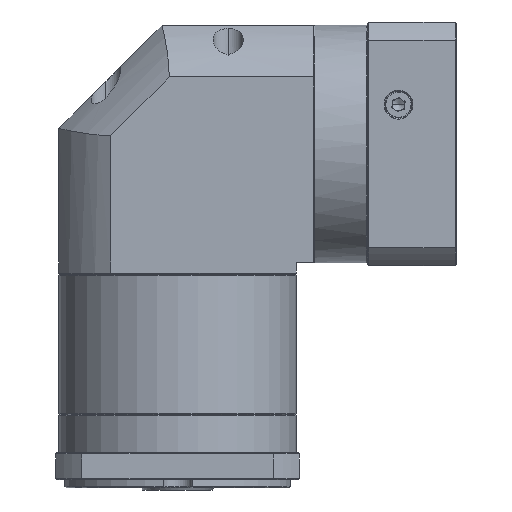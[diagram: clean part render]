
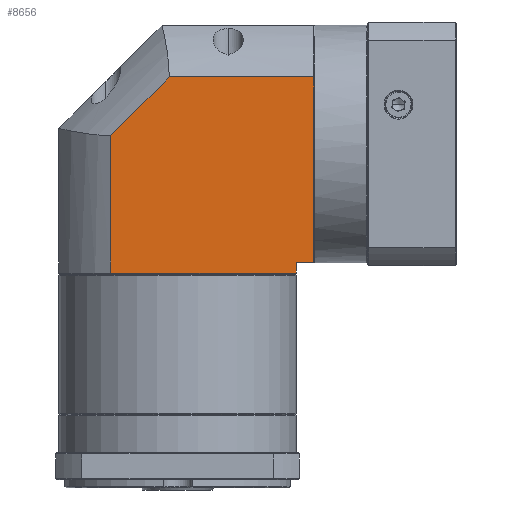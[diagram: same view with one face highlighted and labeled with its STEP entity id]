
A CAD part, front view. The second image highlights one B-rep face of the part: STEP entity #8656.
In plain terms, the highlighted planar face has unit normal (0, -1, 0).
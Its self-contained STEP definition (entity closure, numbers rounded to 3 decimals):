
#617 = VERTEX_POINT ( 'NONE', #78725 ) ;
#1355 = VERTEX_POINT ( 'NONE', #15881 ) ;
#3658 = VERTEX_POINT ( 'NONE', #82100 ) ;
#8656 = ADVANCED_FACE ( 'NONE', ( #77273 ), #113229, .F. ) ;
#12423 = VECTOR ( 'NONE', #115242, 1000. ) ;
#13775 = CARTESIAN_POINT ( 'NONE',  ( 96.073, 31.397, -22.795 ) ) ;
#15881 = CARTESIAN_POINT ( 'NONE',  ( 34.511, 31.397, 72.105 ) ) ;
#19391 = EDGE_CURVE ( 'NONE', #88885, #617, #60490, .T. ) ;
#22396 = VERTEX_POINT ( 'NONE', #65912 ) ;
#23074 = EDGE_CURVE ( 'NONE', #64214, #88885, #101951, .T. ) ;
#24350 = CARTESIAN_POINT ( 'NONE',  ( -18.927, 31.397, -22.795 ) ) ;
#25776 = EDGE_CURVE ( 'NONE', #617, #22396, #82027, .T. ) ;
#26274 = ORIENTED_EDGE ( 'NONE', *, *, #25776, .F. ) ;
#27502 = VECTOR ( 'NONE', #38885, 1000. ) ;
#29859 = EDGE_CURVE ( 'NONE', #1355, #120466, #77345, .T. ) ;
#33200 = DIRECTION ( 'NONE',  ( 0., 1., 0. ) ) ;
#33660 = DIRECTION ( 'NONE',  ( 0.707, 0., 0.707 ) ) ;
#38885 = DIRECTION ( 'NONE',  ( 0., 0., -1. ) ) ;
#43235 = ORIENTED_EDGE ( 'NONE', *, *, #29859, .F. ) ;
#46511 = VECTOR ( 'NONE', #33660, 1000. ) ;
#48465 = CARTESIAN_POINT ( 'NONE',  ( 96.073, 31.397, -29.295 ) ) ;
#48504 = DIRECTION ( 'NONE',  ( 0., 0., 1. ) ) ;
#51196 = VECTOR ( 'NONE', #48504, 1000. ) ;
#54847 = ORIENTED_EDGE ( 'NONE', *, *, #79700, .F. ) ;
#57292 = VECTOR ( 'NONE', #120506, 1000. ) ;
#60490 = LINE ( 'NONE', #24350, #12423 ) ;
#64214 = VERTEX_POINT ( 'NONE', #113069 ) ;
#65912 = CARTESIAN_POINT ( 'NONE',  ( 6.173, 31.397, 43.767 ) ) ;
#69593 = LINE ( 'NONE', #112842, #46511 ) ;
#71695 = CARTESIAN_POINT ( 'NONE',  ( 104.473, 31.397, 72.105 ) ) ;
#72145 = CARTESIAN_POINT ( 'NONE',  ( 104.473, 31.397, -29.295 ) ) ;
#77273 = FACE_OUTER_BOUND ( 'NONE', #102354, .T. ) ;
#77345 = LINE ( 'NONE', #120078, #57292 ) ;
#78725 = CARTESIAN_POINT ( 'NONE',  ( 6.173, 31.397, -22.795 ) ) ;
#79051 = LINE ( 'NONE', #72145, #94750 ) ;
#79700 = EDGE_CURVE ( 'NONE', #120466, #3658, #79051, .T. ) ;
#81337 = EDGE_CURVE ( 'NONE', #3658, #64214, #83343, .T. ) ;
#82027 = LINE ( 'NONE', #107336, #51196 ) ;
#82100 = CARTESIAN_POINT ( 'NONE',  ( 104.473, 31.397, -17.795 ) ) ;
#83343 = LINE ( 'NONE', #108861, #108126 ) ;
#87992 = ORIENTED_EDGE ( 'NONE', *, *, #19391, .F. ) ;
#88885 = VERTEX_POINT ( 'NONE', #13775 ) ;
#93693 = CARTESIAN_POINT ( 'NONE',  ( -18.927, 31.397, -29.295 ) ) ;
#93918 = AXIS2_PLACEMENT_3D ( 'NONE', #93693, #33200, #102898 ) ;
#94486 = EDGE_CURVE ( 'NONE', #22396, #1355, #69593, .T. ) ;
#94750 = VECTOR ( 'NONE', #102960, 1000. ) ;
#95960 = ORIENTED_EDGE ( 'NONE', *, *, #81337, .F. ) ;
#98455 = DIRECTION ( 'NONE',  ( -1., 0., 0. ) ) ;
#101951 = LINE ( 'NONE', #48465, #27502 ) ;
#102354 = EDGE_LOOP ( 'NONE', ( #106979, #95960, #54847, #43235, #115972, #26274, #87992 ) ) ;
#102898 = DIRECTION ( 'NONE',  ( 1., 0., 0. ) ) ;
#102960 = DIRECTION ( 'NONE',  ( 0., 0., -1. ) ) ;
#106979 = ORIENTED_EDGE ( 'NONE', *, *, #23074, .F. ) ;
#107336 = CARTESIAN_POINT ( 'NONE',  ( 6.173, 31.397, -29.295 ) ) ;
#108126 = VECTOR ( 'NONE', #98455, 1000. ) ;
#108861 = CARTESIAN_POINT ( 'NONE',  ( -18.927, 31.397, -17.795 ) ) ;
#112842 = CARTESIAN_POINT ( 'NONE',  ( 6.173, 31.397, 43.767 ) ) ;
#113069 = CARTESIAN_POINT ( 'NONE',  ( 96.073, 31.397, -17.795 ) ) ;
#113229 = PLANE ( 'NONE',  #93918 ) ;
#115242 = DIRECTION ( 'NONE',  ( -1., 0., 0. ) ) ;
#115972 = ORIENTED_EDGE ( 'NONE', *, *, #94486, .F. ) ;
#120078 = CARTESIAN_POINT ( 'NONE',  ( -18.927, 31.397, 72.105 ) ) ;
#120466 = VERTEX_POINT ( 'NONE', #71695 ) ;
#120506 = DIRECTION ( 'NONE',  ( 1., 0., 0. ) ) ;
